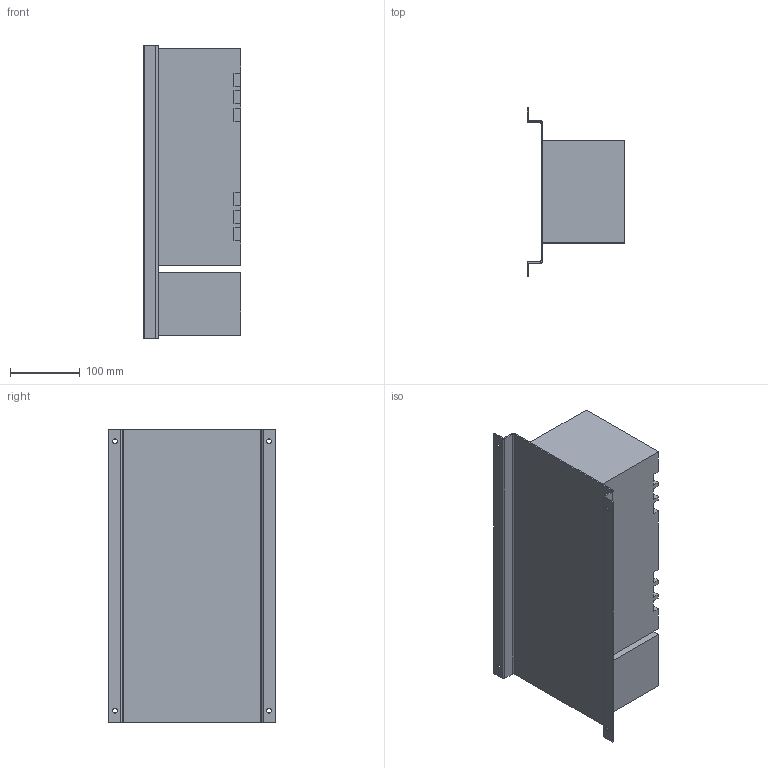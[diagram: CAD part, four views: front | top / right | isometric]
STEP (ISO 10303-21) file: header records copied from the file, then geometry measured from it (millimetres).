
FILE_DESCRIPTION (( 'STEP AP214' ), '1' );
FILE_NAME ('Óñòðîéñòâî ÀÂÐ ÒÑÌ-100_63À 3ð.STEP', '2018-03-06T11:32:42', ( '' ), ( '' ), 'SwSTEP 2.0', 'SolidWorks 2017', '' );
FILE_SCHEMA (( 'AUTOMOTIVE_DESIGN' ));
Length unit declared in the file: millimetre
Products named in the file (1): Óñòðîéñòâî ÀÂÐ ÒÑÌ-100_63À 3ð
Bounding box: 140 x 240 x 420 mm (x, y, z)
Volume: 7080292.9 mm3; surface area: 403242.4 mm2
Topology: 1 solids, 1 shells, 134 faces, 360 edges, 240 vertices
Faces by surface type: plane 118, cylinder 16
Entity records: 4318 total; most frequent: CARTESIAN_POINT 735, ORIENTED_EDGE 720, DIRECTION 662, EDGE_CURVE 360, LINE 328, VECTOR 328, VERTEX_POINT 240, AXIS2_PLACEMENT_3D 167
